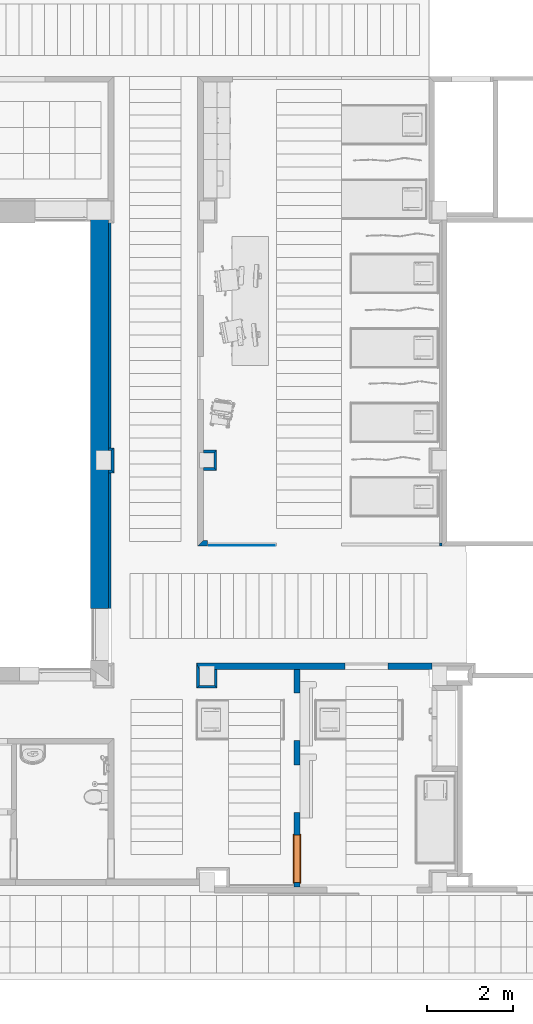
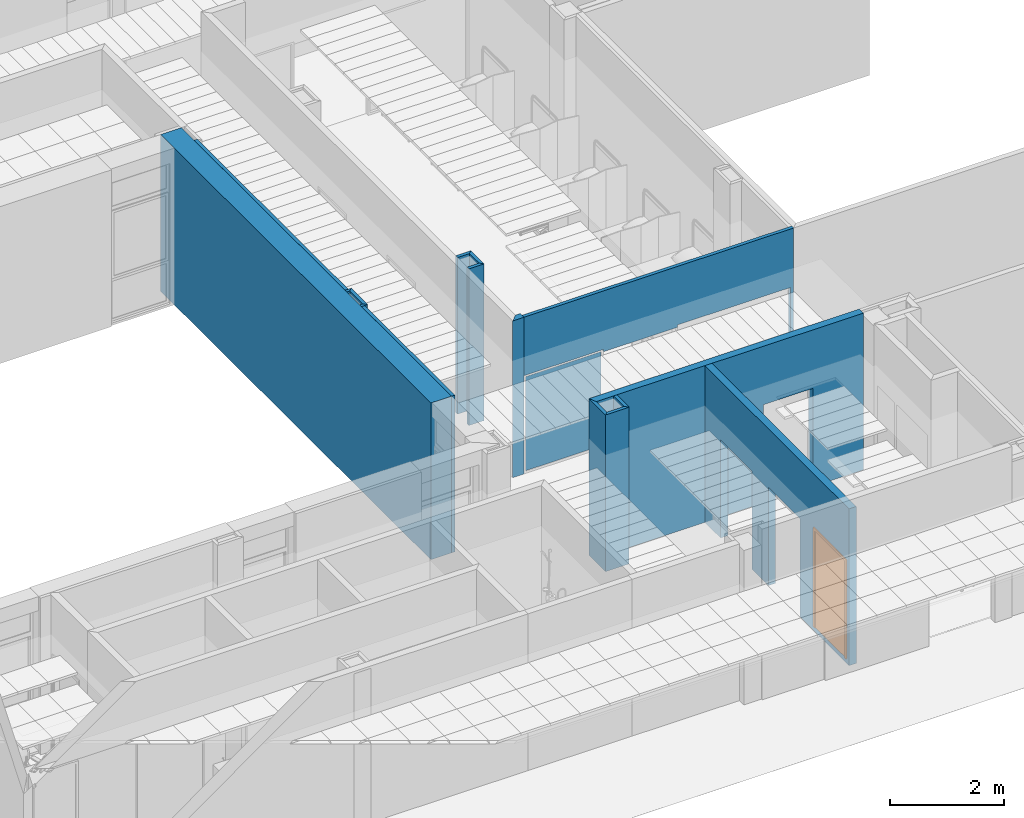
# One storey, part 34 of 68: 16 walls, 1 building element part, 1 proxy, 7 openings, 1 element without a shape of its own.
"""IFC2X3 building model written with IfcOpenShell, lengths in millimetres."""

from ifc_helpers import new_model, entity, si_unit, converted_unit, derived_unit, money_unit, direction, frame, origin_with_axes, origin_2d_with_axis, place, context, subcontext, project, spatial, polyline, rectangle, outline, extrude, faceted_brep, source, transform, mapped, material, layer, layer_set, layer_usage, type_object, element, fill, aggregate, save


model = new_model("IFC2X3")

# Units and contexts
model_context = context("Model", 3, precision=0.01, world=origin_with_axes(), true_north=direction((0.0, 1.0)))
body_context = subcontext(model_context, "Body", "Model", "MODEL_VIEW")
ifc_project = project(units=[si_unit("LENGTHUNIT", "METRE", prefix="MILLI"), si_unit("AREAUNIT", "SQUARE_METRE"), si_unit("VOLUMEUNIT", "CUBIC_METRE"), converted_unit("PLANEANGLEUNIT", "DEGREE", entity("IfcPlaneAngleMeasure", 0.0174532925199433), si_unit("PLANEANGLEUNIT", "RADIAN"), dimensions=[0, 0, 0, 0, 0, 0, 0]), money_unit("USD"), converted_unit("TIMEUNIT", "Year", entity("IfcTimeMeasure", 31557600.0), si_unit("TIMEUNIT", "SECOND"), dimensions=[0, 0, 1, 0, 0, 0, 0]), si_unit("MASSUNIT", "GRAM", prefix="KILO"), si_unit("THERMODYNAMICTEMPERATUREUNIT", "DEGREE_CELSIUS"), si_unit("LUMINOUSINTENSITYUNIT", "LUMEN"), si_unit("ENERGYUNIT", "JOULE", prefix="MEGA"), derived_unit("THERMALCONDUCTANCEUNIT", [(si_unit("POWERUNIT", "WATT"), 1), (si_unit("LENGTHUNIT", "METRE"), -1), (si_unit("THERMODYNAMICTEMPERATUREUNIT", "KELVIN"), -1)]), derived_unit("SPECIFICHEATCAPACITYUNIT", [(si_unit("ENERGYUNIT", "JOULE"), 1), (si_unit("MASSUNIT", "GRAM", prefix="KILO"), -1), (si_unit("THERMODYNAMICTEMPERATUREUNIT", "KELVIN"), -1)]), derived_unit("MASSDENSITYUNIT", [(si_unit("MASSUNIT", "GRAM", prefix="KILO"), 1), (si_unit("VOLUMEUNIT", "CUBIC_METRE"), -1)])], contexts=[model_context])

# Site, building, storey
site_placement = place(None, origin_with_axes())
site = spatial("IfcSite", under=ifc_project, at=site_placement, Name="Sitio", CompositionType="ELEMENT")
building_placement = place(site_placement, origin_with_axes())
building = spatial("IfcBuilding", under=site, at=building_placement, Name="Construcción", CompositionType="ELEMENT")
storey_placement = place(building_placement, origin_with_axes())
storey = spatial("IfcBuildingStorey", under=building, at=storey_placement, Name="PLANTA 1ª", CompositionType="ELEMENT", Elevation=0.0)

# Walls
ifc_material_1 = material(Name="ARQ_CE217_Gero")
ifc_layer_1 = layer(ifc_material_1, 150.0, ventilated="UNKNOWN")
ifc_material_2 = material(Name="ARQ_AI031_Aillament_Poliestireno expandido EPS")
ifc_layer_2 = layer(ifc_material_2, 180.0, ventilated="UNKNOWN")
ifc_material_3 = material(Name="ARQ_CE218_Ceramic")
ifc_layer_3 = layer(ifc_material_3, 80.0, ventilated="UNKNOWN")
ifc_material_4 = material(Name="ARQ_AM246_Arrebossat_De_Guix")
ifc_layer_4 = layer(ifc_material_4, 10.0, ventilated="UNKNOWN")
ifc_layer_set_1 = layer_set([ifc_layer_1, ifc_layer_2, ifc_layer_3, ifc_layer_4], Name="façana pati CR1")
ifc_layer_usage_1 = layer_usage(ifc_layer_set_1, "AXIS2", "POSITIVE", -420.0)
wall_type_1 = type_object("IfcWallType", Name="façana pati CR1 420", PredefinedType="NOTDEFINED")
wall_1_placement = place(storey_placement, frame((-1681.10900487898, -1193.975823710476, 0.0), z_axis=(0.0, 0.0, 1.0), x_axis=(0.0, -1.0, 0.0)))
element("IfcWallStandardCase", 1, at=wall_1_placement, inside=storey, type_object=wall_type_1, material=ifc_layer_usage_1, Name="MS-200", context=body_context, shape_type="SweptSolid", body=[
    extrude(outline(polyline([(0.0, -419.9999999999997), (9465.00000000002, -419.9999999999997), (9465.00000000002, 0.0), (0.0, 0.0), (0.0, -419.9999999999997)])), origin_with_axes(), (0.0, 0.0, 1.0), 3350.0),
])
ifc_material_5 = material(Name="Panel de Yeso Laminado")
ifc_layer_5 = layer(ifc_material_5, 13.0, ventilated="UNKNOWN")
ifc_layer_6 = layer(ifc_material_5, 13.0, ventilated="UNKNOWN")
ifc_material_6 = material(Name="ARQ_AI033_Aillament_Llana_De_Roca")
ifc_layer_7 = layer(ifc_material_6, 70.0, ventilated="UNKNOWN")
ifc_layer_8 = layer(ifc_material_5, 13.0, ventilated="UNKNOWN")
ifc_layer_9 = layer(ifc_material_5, 13.0, ventilated="UNKNOWN")
ifc_material_7 = material(Name="ARQ_EN271_Camara_Aire")
ifc_layer_10 = layer(ifc_material_7, 6.0, ventilated="UNKNOWN")
ifc_material_8 = material(Name="ARQ_FU093_Panellat_HPL")
ifc_layer_11 = layer(ifc_material_8, 6.0, ventilated="UNKNOWN")
ifc_layer_set_2 = layer_set([ifc_layer_5, ifc_layer_6, ifc_layer_7, ifc_layer_8, ifc_layer_9, ifc_layer_10, ifc_layer_11], Name="CR Pladur 70 HPL 1 cara")
ifc_layer_usage_2 = layer_usage(ifc_layer_set_2, "AXIS2", "NEGATIVE", 134.0)
wall_type_2 = type_object("IfcWallType", Name="CR Pladur 70 HPL 1 cara 134", PredefinedType="NOTDEFINED")
wall_2_placement = place(storey_placement, frame((390.891077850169, -9207.420994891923, 0.0), z_axis=(0.0, 0.0, 1.0), x_axis=(1.0, 0.0, 0.0)))
element("IfcWallStandardCase", 2, at=wall_2_placement, inside=storey, type_object=wall_type_2, material=ifc_layer_usage_2, Name="MS-212", context=body_context, shape_type="SweptSolid", body=[
    extrude(outline(polyline([(0.0, 0.0), (225.9364483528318, 0.0), (225.9364483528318, 134.0000000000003), (134.0, 134.0000000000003), (0.0, 0.0)])), origin_with_axes(), (0.0, 0.0, 1.0), 3350.0),
])

# Wall, openings
ifc_layer_12 = layer(ifc_material_5, 5.0, ventilated="UNKNOWN")
ifc_layer_13 = layer(ifc_material_6, 60.0, ventilated="UNKNOWN")
ifc_layer_14 = layer(ifc_material_5, 5.0, ventilated="UNKNOWN")
ifc_layer_set_3 = layer_set([ifc_layer_12, ifc_layer_13, ifc_layer_14], Name="CR- MAMPARA")
ifc_layer_usage_3 = layer_usage(ifc_layer_set_3, "AXIS2", "POSITIVE", -70.0)
wall_type_3 = type_object("IfcWallType", Name="CR- MAMPARA 70", PredefinedType="NOTDEFINED")
wall_3_placement = place(storey_placement, frame((616.8275262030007, -9137.420994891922, 0.0), z_axis=(0.0, 0.0, 1.0), x_axis=(1.0, 0.0, 0.0)))
wall_3 = element("IfcWallStandardCase", 3, at=wall_3_placement, inside=storey, type_object=wall_type_3, material=ifc_layer_usage_3, Name="MS-212", context=body_context, shape_type="SweptSolid", body=[
    extrude(outline(polyline([(0.0, -70.00000000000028), (5452.063468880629, -70.00000000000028), (5452.063468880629, 0.0), (0.0, 0.0), (0.0, -70.00000000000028)])), origin_with_axes(), (0.0, 0.0, 1.0), 3350.0),
])
opening_1_placement = place(wall_3_placement, frame((805.000864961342, 0.0, 0.0), z_axis=(0.0, 0.0, 1.0), x_axis=(1.0, 0.0, 0.0)))
opening_1 = element("IfcOpeningElement", 4, at=opening_1_placement, cuts=wall_3, Name="M-10", context=body_context, shape_type="SweptSolid", body=[
    extrude(rectangle(XDim=1610.001729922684, YDim=2100.0, at=origin_2d_with_axis()), frame((0.0, 70.00000000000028, 1050.0), z_axis=(0.0, -1.0, 0.0), x_axis=(-1.0, 0.0, 0.0)), (0.0, 0.0, 1.0), 210.0),
])
opening_2_placement = place(wall_3_placement, frame((4248.532599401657, 0.0, 0.0), z_axis=(0.0, 0.0, 1.0), x_axis=(1.0, 0.0, 0.0)))
element("IfcOpeningElement", 5, at=opening_2_placement, cuts=wall_3, Name="M-11", context=body_context, shape_type="SweptSolid", body=[
    extrude(rectangle(XDim=2277.061738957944, YDim=2100.0, at=origin_2d_with_axis()), frame((0.0, 70.00000000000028, 1050.0), z_axis=(0.0, -1.0, 0.0), x_axis=(-1.0, 0.0, 0.0)), (0.0, 0.0, 1.0), 210.0),
])
opening_3_placement = place(wall_3_placement, frame((2360.001729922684, 0.0, 0.0), z_axis=(0.0, 0.0, 1.0), x_axis=(1.0, 0.0, 0.0)))
element("IfcOpeningElement", 6, at=opening_3_placement, cuts=wall_3, Name="PF-19D", context=body_context, shape_type="SweptSolid", body=[
    extrude(rectangle(XDim=1500.0, YDim=2050.0, at=origin_2d_with_axis()), frame((0.0, 70.00000000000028, 1025.0), z_axis=(0.0, 1.0, 0.0), x_axis=(-1.0, 0.0, 0.0)), (0.0, 0.0, -1.0), 210.0),
])

# Walls
ifc_layer_15 = layer(ifc_material_8, 6.0, ventilated="UNKNOWN")
ifc_layer_16 = layer(ifc_material_7, 6.0, ventilated="UNKNOWN")
ifc_layer_17 = layer(ifc_material_5, 13.0, ventilated="UNKNOWN")
ifc_layer_18 = layer(ifc_material_6, 40.0, ventilated="UNKNOWN")
ifc_layer_set_4 = layer_set([ifc_layer_15, ifc_layer_16, ifc_layer_17, ifc_layer_18], Name="Pladur Tras 40 / 1N +HPL")
ifc_layer_usage_4 = layer_usage(ifc_layer_set_4, "AXIS2", "POSITIVE", -65.0)
wall_type_4 = type_object("IfcWallType", Name="Pladur Tras 40 / 1N +HPL 65", PredefinedType="NOTDEFINED")
wall_4_placement = place(storey_placement, frame((428.8909950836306, -12069.97582371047, 0.0), z_axis=(0.0, 0.0, 1.0), x_axis=(0.0, -1.0, 0.0)))
element("IfcWallStandardCase", 7, at=wall_4_placement, inside=storey, type_object=wall_type_4, material=ifc_layer_usage_4, Name="MS-226", context=body_context, shape_type="SweptSolid", body=[
    extrude(outline(polyline([(-146.0000000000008, -65.0), (433.9999999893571, -65.0), (368.9999999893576, 0.0), (0.0, 0.0), (-146.0000000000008, -65.0)])), origin_with_axes(), (0.0, 0.0, 1.0), 3350.0),
])
ifc_layer_usage_5 = layer_usage(ifc_layer_set_4, "AXIS2", "POSITIVE", -65.0)
wall_5_placement = place(storey_placement, frame((428.8909950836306, -12438.97582369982, 0.0), z_axis=(0.0, 0.0, 1.0), x_axis=(1.0, 0.0, 0.0)))
element("IfcWallStandardCase", 8, at=wall_5_placement, inside=storey, type_object=wall_type_4, material=ifc_layer_usage_5, Name="MS-227", context=body_context, shape_type="SweptSolid", body=[
    extrude(outline(polyline([(-65.0, -64.9999999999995), (415.0000525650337, -64.9999999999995), (350.0000525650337, 0.0), (0.0, 0.0), (-65.0, -64.9999999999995)])), origin_with_axes(), (0.0, 0.0, 1.0), 3350.0),
])
ifc_layer_usage_6 = layer_usage(ifc_layer_set_4, "AXIS2", "POSITIVE", -65.0)
wall_6_placement = place(storey_placement, frame((778.8910476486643, -12438.97582369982, 0.0), z_axis=(0.0, 0.0, 1.0), x_axis=(0.0, 1.0, 0.0)))
element("IfcWallStandardCase", 9, at=wall_6_placement, inside=storey, type_object=wall_type_4, material=ifc_layer_usage_6, Name="MS-228", context=body_context, shape_type="SweptSolid", body=[
    extrude(outline(polyline([(-64.9999999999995, -64.99999999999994), (368.9999999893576, -64.99999999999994), (368.9999999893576, 0.0), (0.0, 0.0), (-64.9999999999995, -64.99999999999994)])), origin_with_axes(), (0.0, 0.0, 1.0), 3350.0),
])
ifc_layer_usage_7 = layer_usage(ifc_layer_set_4, "AXIS2", "POSITIVE", 0.0)
wall_7_placement = place(storey_placement, frame((-1616.109004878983, -10658.9758237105, 0.0), z_axis=(0.0, 0.0, 1.0), x_axis=(0.0, 1.0, 0.0)))
element("IfcWallStandardCase", 10, at=wall_7_placement, inside=storey, type_object=wall_type_4, material=ifc_layer_usage_7, Name="MS-212", context=body_context, shape_type="SweptSolid", body=[
    extrude(outline(polyline([(0.0, 0.0), (3179.999134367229, 0.0), (3179.999134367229, 64.99999999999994), (0.0, 64.99999999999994), (0.0, 0.0)])), origin_with_axes(), (0.0, 0.0, 1.0), 3350.0),
])
ifc_layer_usage_8 = layer_usage(ifc_layer_set_4, "AXIS2", "POSITIVE", -65.0)
wall_8_placement = place(storey_placement, frame((-1681.109004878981, -7438.976689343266, 0.0), z_axis=(0.0, 0.0, 1.0), x_axis=(1.0, 0.0, 0.0)))
element("IfcWallStandardCase", 11, at=wall_8_placement, inside=storey, type_object=wall_type_4, material=ifc_layer_usage_8, Name="MS-238", context=body_context, shape_type="SweptSolid", body=[
    extrude(outline(polyline([(0.0, -65.0000000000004), (125.0000525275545, -65.0000000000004), (60.00005252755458, 0.0), (0.0, 0.0), (0.0, -65.0000000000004)])), origin_with_axes(), (0.0, 0.0, 1.0), 3350.0),
])
ifc_layer_usage_9 = layer_usage(ifc_layer_set_4, "AXIS2", "POSITIVE", -65.0)
wall_9_placement = place(storey_placement, frame((-1621.108952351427, -7438.976689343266, 0.0), z_axis=(0.0, 0.0, 1.0), x_axis=(0.0, 1.0, 0.0)))
element("IfcWallStandardCase", 12, at=wall_9_placement, inside=storey, type_object=wall_type_4, material=ifc_layer_usage_9, Name="MS-239", context=body_context, shape_type="SweptSolid", body=[
    extrude(outline(polyline([(-65.0000000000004, -64.99999999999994), (515.0020821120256, -64.99999999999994), (450.0020821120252, 0.0), (0.0, 0.0), (-65.0000000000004, -64.99999999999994)])), origin_with_axes(), (0.0, 0.0, 1.0), 3350.0),
])
ifc_layer_usage_10 = layer_usage(ifc_layer_set_4, "AXIS2", "POSITIVE", -65.0)
wall_10_placement = place(storey_placement, frame((-1621.108952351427, -6988.974607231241, 0.0), z_axis=(0.0, 0.0, 1.0), x_axis=(-1.0, 0.0, 0.0)))
element("IfcWallStandardCase", 13, at=wall_10_placement, inside=storey, type_object=wall_type_4, material=ifc_layer_usage_10, Name="MS-240", context=body_context, shape_type="SweptSolid", body=[
    extrude(outline(polyline([(-64.99999999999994, -65.0000000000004), (60.00005252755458, -65.0000000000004), (60.00005252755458, 0.0), (0.0, 0.0), (-64.99999999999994, -65.0000000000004)])), origin_with_axes(), (0.0, 0.0, 1.0), 3350.0),
])
ifc_layer_usage_11 = layer_usage(ifc_layer_set_4, "AXIS2", "POSITIVE", 0.0)
wall_11_placement = place(storey_placement, frame((-1616.109004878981, -6938.974607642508, 0.0), z_axis=(0.0, 0.0, 1.0), x_axis=(0.0, 1.0, 0.0)))
element("IfcWallStandardCase", 14, at=wall_11_placement, inside=storey, type_object=wall_type_4, material=ifc_layer_usage_11, Name="MS-241", context=body_context, shape_type="SweptSolid", body=[
    extrude(outline(polyline([(0.0, 0.0), (5299.998783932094, 0.0), (5299.998783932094, 64.99999999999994), (0.0, 64.99999999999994), (0.0, 0.0)])), origin_with_axes(), (0.0, 0.0, 1.0), 3350.0),
])

# Wall, openings, proxy
ifc_layer_19 = layer(ifc_material_8, 6.0, ventilated="UNKNOWN")
ifc_layer_20 = layer(ifc_material_7, 6.0, ventilated="UNKNOWN")
ifc_layer_21 = layer(ifc_material_5, 13.0, ventilated="UNKNOWN")
ifc_layer_22 = layer(ifc_material_5, 13.0, ventilated="UNKNOWN")
ifc_layer_23 = layer(ifc_material_6, 70.0, ventilated="UNKNOWN")
ifc_layer_24 = layer(ifc_material_5, 13.0, ventilated="UNKNOWN")
ifc_layer_25 = layer(ifc_material_5, 13.0, ventilated="UNKNOWN")
ifc_layer_26 = layer(ifc_material_7, 6.0, ventilated="UNKNOWN")
ifc_layer_27 = layer(ifc_material_8, 6.0, ventilated="UNKNOWN")
ifc_layer_set_5 = layer_set([ifc_layer_19, ifc_layer_20, ifc_layer_21, ifc_layer_22, ifc_layer_23, ifc_layer_24, ifc_layer_25, ifc_layer_26, ifc_layer_27], Name="CR Pladur 70 HPL 2 cares")
ifc_layer_usage_12 = layer_usage(ifc_layer_set_5, "AXIS2", "POSITIVE", -146.0)
wall_type_5 = type_object("IfcWallType", Name="CR Pladur 70 HPL 2 cares 146", PredefinedType="NOTDEFINED")
wall_12_placement = place(storey_placement, frame((2622.912972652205, -17264.97565901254, 0.0), z_axis=(0.0, 0.0, 1.0), x_axis=(0.0, 1.0, 0.0)))
wall_12 = element("IfcWallStandardCase", 15, at=wall_12_placement, inside=storey, type_object=wall_type_5, material=ifc_layer_usage_12, Name="MS-212", context=body_context, shape_type="SweptSolid", body=[
    extrude(outline(polyline([(146.0000000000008, -145.9999999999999), (5276.0, -145.9999999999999), (5276.0, 0.0), (146.0000000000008, 0.0), (146.0000000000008, -145.9999999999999)])), origin_with_axes(), (0.0, 0.0, 1.0), 3350.0),
])
opening_4_placement = place(wall_12_placement, frame((4095.834562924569, 0.0, 0.0), z_axis=(0.0, 0.0, 1.0), x_axis=(1.0, 0.0, 0.0)))
element("IfcOpeningElement", 16, at=opening_4_placement, cuts=wall_12, Name="P- Transfer", context=body_context, shape_type="SweptSolid", body=[
    extrude(rectangle(XDim=1100.000000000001, YDim=2100.0, at=origin_2d_with_axis()), frame((0.0, -145.9999999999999, 1050.0), z_axis=(0.0, -1.0, 0.0), x_axis=(1.0, 0.0, 0.0)), (0.0, 0.0, -1.0), 438.0000000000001),
])
opening_5_placement = place(wall_12_placement, frame((2418.715045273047, 0.0, 0.0), z_axis=(0.0, 0.0, 1.0), x_axis=(1.0, 0.0, 0.0)))
element("IfcOpeningElement", 17, at=opening_5_placement, cuts=wall_12, Name="P- Transfer", context=body_context, shape_type="SweptSolid", body=[
    extrude(rectangle(XDim=1100.000000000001, YDim=2100.0, at=origin_2d_with_axis()), frame((0.0, -145.9999999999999, 1050.0), z_axis=(0.0, -1.0, 0.0), x_axis=(1.0, 0.0, 0.0)), (0.0, 0.0, -1.0), 438.0000000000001),
])
opening_6_placement = place(wall_12_placement, frame((797.4995115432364, 0.0, 100.0), z_axis=(0.0, 0.0, 1.0), x_axis=(1.0, 0.0, 0.0)))
opening_6 = element("IfcOpeningElement", 18, at=opening_6_placement, cuts=wall_12, Name="P-03", context=body_context, shape_type="SweptSolid", body=[
    extrude(rectangle(XDim=1100.000000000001, YDim=2100.0, at=origin_2d_with_axis()), frame((0.0, -145.9999999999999, 1050.0), z_axis=(0.0, -1.0, 0.0), x_axis=(-1.0, 0.0, 0.0)), (0.0, 0.0, -1.0), 438.0000000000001),
    extrude(rectangle(XDim=1143.999999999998, YDim=2122.0, at=origin_2d_with_axis()), frame((0.0, -145.9999999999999, 1061.0), z_axis=(0.0, -1.0, 0.0), x_axis=(-1.0, 0.0, 0.0)), (0.0, 0.0, 1.0), 146.0),
    extrude(rectangle(XDim=1143.999999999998, YDim=2122.0, at=origin_2d_with_axis()), frame((0.0, 0.0, 1061.0), z_axis=(0.0, 1.0, 0.0), x_axis=(-1.0, 0.0, 0.0)), (0.0, 0.0, 1.0), 146.0),
])
building_element_proxy_type_1 = type_object("IfcBuildingElementProxyType", Name="Puerta 27", PredefinedType="NOTDEFINED")
shared_shape = source(origin_with_axes(), body_context, "Body", "Brep", [
    faceted_brep([(572.0000000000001, -165.0, 0.0), (522.0, -165.0, 0.0), (522.0, -146.0, 0.0), (572.0000000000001, -146.0, 0.0), (572.0000000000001, -165.0000000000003, 2122.0), (522.0, -165.0000000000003, 2072.0), (522.0, -146.0000000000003, 2072.0), (572.0000000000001, -146.0000000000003, 2122.0)], [[[0, 1, 2, 3]], [[0, 4, 5, 1]], [[1, 5, 6, 2]], [[3, 2, 6, 7]], [[4, 0, 3, 7]], [[5, 4, 7, 6]]]),
    faceted_brep([(-572.0000000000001, -165.0000000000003, 2122.0), (-522.0, -165.0000000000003, 2072.0), (-522.0, -146.0000000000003, 2072.0), (-572.0000000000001, -146.0000000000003, 2122.0), (-572.0000000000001, -165.0, 0.0), (-522.0, -165.0, 0.0), (-522.0, -146.0, 0.0), (-572.0000000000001, -146.0, 0.0)], [[[0, 1, 2, 3]], [[0, 4, 5, 1]], [[1, 5, 6, 2]], [[3, 2, 6, 7]], [[4, 0, 3, 7]], [[5, 4, 7, 6]]]),
    faceted_brep([(572.0000000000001, -165.0000000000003, 2122.0), (522.0, -165.0000000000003, 2072.0), (522.0, -146.0000000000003, 2072.0), (572.0000000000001, -146.0000000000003, 2122.0), (-572.0000000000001, -165.0000000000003, 2122.0), (-522.0, -165.0000000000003, 2072.0), (-522.0, -146.0000000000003, 2072.0), (-572.0000000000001, -146.0000000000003, 2122.0)], [[[0, 1, 2, 3]], [[0, 4, 5, 1]], [[1, 5, 6, 2]], [[3, 2, 6, 7]], [[4, 0, 3, 7]], [[5, 4, 7, 6]]]),
    faceted_brep([(572.0000000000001, 19.0, 0.0), (572.0000000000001, 0.0, 0.0), (522.0, 0.0, 0.0), (522.0, 19.0, 0.0), (572.0000000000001, 18.99999999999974, 2122.0), (572.0000000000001, 0.0, 2122.0), (522.0, 0.0, 2072.0), (522.0, 18.99999999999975, 2072.0)], [[[0, 1, 2, 3]], [[4, 5, 1, 0]], [[1, 5, 6, 2]], [[3, 2, 6, 7]], [[0, 3, 7, 4]], [[7, 6, 5, 4]]]),
    faceted_brep([(-572.0000000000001, 18.99999999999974, 2122.0), (-572.0000000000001, 0.0, 2122.0), (-522.0, 0.0, 2072.0), (-522.0, 18.99999999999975, 2072.0), (-572.0000000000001, 19.0, 0.0), (-572.0000000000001, 0.0, 0.0), (-522.0, 0.0, 0.0), (-522.0, 19.0, 0.0)], [[[0, 1, 2, 3]], [[4, 5, 1, 0]], [[1, 5, 6, 2]], [[3, 2, 6, 7]], [[0, 3, 7, 4]], [[7, 6, 5, 4]]]),
    faceted_brep([(572.0000000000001, 18.99999999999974, 2122.0), (572.0000000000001, 0.0, 2122.0), (522.0, 0.0, 2072.0), (522.0, 18.99999999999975, 2072.0), (-572.0000000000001, 18.99999999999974, 2122.0), (-572.0000000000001, 0.0, 2122.0), (-522.0, 0.0, 2072.0), (-522.0, 18.99999999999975, 2072.0)], [[[0, 1, 2, 3]], [[4, 5, 1, 0]], [[1, 5, 6, 2]], [[3, 2, 6, 7]], [[0, 3, 7, 4]], [[7, 6, 5, 4]]]),
    faceted_brep([(510.0, -40.0, 0.0), (510.0, -146.0, 0.0), (510.0, -146.0, 2060.0), (510.0, -40.0, 2060.0), (522.0, -40.0, 0.0), (522.0, 0.0, 0.0), (550.0, 0.0, 0.0), (550.0, -146.0, 0.0), (550.0, -146.0, 2060.0), (522.0, -40.0, 2060.0), (550.0, 0.0, 2060.0), (522.0, 0.0, 2060.0)], [[[0, 1, 2, 3]], [[4, 5, 6, 7, 1, 0]], [[1, 7, 8, 2]], [[9, 3, 2, 8, 10, 11]], [[9, 4, 0, 3]], [[11, 5, 4, 9]], [[11, 10, 6, 5]], [[6, 10, 8, 7]]]),
    faceted_brep([(-522.0, -40.0, 2060.0), (-522.0, 0.0, 2060.0), (-550.0, 0.0, 2060.0), (-550.0, -146.0, 2060.0), (-510.0, -146.0, 2060.0), (-510.0, -40.0, 2060.0), (-522.0, -40.0, 0.0), (-522.0, 0.0, 0.0), (-550.0, 0.0, 0.0), (-550.0, -146.0, 0.0), (-510.0, -146.0, 0.0), (-510.0, -40.0, 0.0)], [[[0, 1, 2, 3, 4, 5]], [[0, 6, 7, 1]], [[7, 8, 2, 1]], [[2, 8, 9, 3]], [[3, 9, 10, 4]], [[5, 4, 10, 11]], [[5, 11, 6, 0]], [[6, 11, 10, 9, 8, 7]]]),
    faceted_brep([(522.0, 0.0, 2072.0), (-522.0, 0.0, 2072.0), (-522.0, 0.0, 2060.0), (-550.0, 0.0, 2060.0), (-550.0, 0.0, 2100.0), (550.0, 0.0, 2100.0), (550.0, 0.0, 2060.0), (522.0, 0.0, 2060.0), (522.0, -40.0, 2072.0), (-522.0, -40.0, 2072.0), (-522.0, -40.0, 2060.0), (-510.0, -40.0, 2060.0), (-510.0, -146.0, 2060.0), (-550.0, -146.0, 2060.0), (-550.0, -146.0, 2100.0), (550.0, -146.0, 2100.0), (550.0, -146.0, 2060.0), (522.0, -40.0, 2060.0), (510.0, -146.0, 2060.0), (510.0, -40.0, 2060.0)], [[[0, 1, 2, 3, 4, 5, 6, 7]], [[0, 8, 9, 1]], [[1, 9, 10, 2]], [[10, 11, 12, 13, 3, 2]], [[4, 3, 13, 14]], [[5, 4, 14, 15]], [[6, 5, 15, 16]], [[17, 7, 6, 16, 18, 19]], [[7, 17, 8, 0]], [[10, 9, 8, 17, 19, 11]], [[19, 18, 12, 11]], [[12, 18, 16, 15, 14, 13]]]),
    faceted_brep([(-522.0, 0.0, 0.0), (522.0, 0.0, 0.0), (522.0, -40.0, 0.0), (-522.0, -40.0, 0.0), (-522.0, 0.0, 2072.0), (522.0, 0.0, 2072.0), (522.0, -40.00000000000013, 2072.0), (-522.0, -40.00000000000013, 2072.0)], [[[0, 1, 2, 3]], [[0, 4, 5, 1]], [[1, 5, 6, 2]], [[3, 2, 6, 7]], [[4, 0, 3, 7]], [[5, 4, 7, 6]]]),
])
proxy_1_placement = place(opening_6_placement, frame((-550.0000000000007, 0.0, 0.0), z_axis=(0.0, 0.0, 1.0), x_axis=(1.0, 0.0, 0.0)))
proxy_1 = element("IfcBuildingElementProxy", 19, at=proxy_1_placement, inside=storey, type_object=building_element_proxy_type_1, Name="P-03", context=body_context, shape_type="MappedRepresentation", body=[
    mapped(shared_shape, transform((550.0000000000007, 0.0, 0.0))),
])
fill(opening_6, proxy_1)

# Wall, opening
ifc_layer_usage_13 = layer_usage(ifc_layer_set_5, "AXIS2", "POSITIVE", -146.0)
wall_13_placement = place(storey_placement, frame((5828.890995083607, -12069.97582371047, 0.0), z_axis=(0.0, 0.0, 1.0), x_axis=(-1.0, 0.0, 0.0)))
wall_13 = element("IfcWallStandardCase", 20, at=wall_13_placement, inside=storey, type_object=wall_type_5, material=ifc_layer_usage_13, Name="MS-225", context=body_context, shape_type="SweptSolid", body=[
    extrude(outline(polyline([(0.0, -146.0000000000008), (5464.999999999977, -146.0000000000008), (5399.999999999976, 0.0), (0.0, 0.0), (0.0, -146.0000000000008)])), origin_with_axes(), (0.0, 0.0, 1.0), 3350.0),
])
opening_7_placement = place(wall_13_placement, frame((1521.495129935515, 0.0, 0.0), z_axis=(0.0, 0.0, 1.0), x_axis=(1.0, 0.0, 0.0)))
element("IfcOpeningElement", 21, at=opening_7_placement, cuts=wall_13, Name="F-02", context=body_context, shape_type="SweptSolid", body=[
    extrude(rectangle(XDim=999.9999999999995, YDim=2100.0, at=origin_2d_with_axis()), frame((0.0, 146.0000000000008, 1050.0), z_axis=(0.0, -1.0, 0.0), x_axis=(-1.0, 0.0, 0.0)), (0.0, 0.0, 1.0), 438.0000000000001),
])

# Walls
ifc_layer_28 = layer(ifc_material_5, 13.0, ventilated="UNKNOWN")
ifc_layer_29 = layer(ifc_material_5, 13.0, ventilated="UNKNOWN")
ifc_layer_30 = layer(ifc_material_6, 40.0, ventilated="UNKNOWN")
ifc_layer_set_6 = layer_set([ifc_layer_28, ifc_layer_29, ifc_layer_30], Name="Pladur Tras 40 / 2N")
ifc_layer_usage_14 = layer_usage(ifc_layer_set_6, "AXIS2", "POSITIVE", 0.0)
wall_type_6 = type_object("IfcWallType", Name="Pladur Tras 40 / 2N 66", PredefinedType="NOTDEFINED")
wall_14_placement = place(storey_placement, frame((831.8910476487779, -7446.975823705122, 0.0), z_axis=(0.0, 0.0, 1.0), x_axis=(0.0, 1.0, 0.0)))
element("IfcWallStandardCase", 22, at=wall_14_placement, inside=storey, type_object=wall_type_6, material=ifc_layer_usage_14, Name="MS-212", context=body_context, shape_type="SweptSolid", body=[
    extrude(outline(polyline([(0.0, 0.0), (466.0000001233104, 0.0), (400.0000001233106, 65.99999999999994), (65.99999999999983, 65.99999999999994), (0.0, 0.0)])), origin_with_axes(), (0.0, 0.0, 1.0), 3350.0),
])
ifc_layer_usage_15 = layer_usage(ifc_layer_set_6, "AXIS2", "NEGATIVE", 0.0)
wall_15_placement = place(storey_placement, frame((831.8910476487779, -7446.975823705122, 0.0), z_axis=(0.0, 0.0, 1.0), x_axis=(-1.0, 0.0, 0.0)))
element("IfcWallStandardCase", 23, at=wall_15_placement, inside=storey, type_object=wall_type_6, material=ifc_layer_usage_15, Name="MS-212", context=body_context, shape_type="SweptSolid", body=[
    extrude(outline(polyline([(65.99999999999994, -65.99999999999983), (306.9999697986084, -65.99999999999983), (306.9999697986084, 0.0), (0.0, 0.0), (65.99999999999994, -65.99999999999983)])), origin_with_axes(), (0.0, 0.0, 1.0), 3350.0),
])
ifc_layer_usage_16 = layer_usage(ifc_layer_set_6, "AXIS2", "POSITIVE", 0.0)
wall_16_placement = place(storey_placement, frame((831.8910476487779, -6980.975823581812, 0.0), z_axis=(0.0, 0.0, 1.0), x_axis=(-1.0, 0.0, 0.0)))
element("IfcWallStandardCase", 24, at=wall_16_placement, inside=storey, type_object=wall_type_6, material=ifc_layer_usage_16, Name="MS-212", context=body_context, shape_type="SweptSolid", body=[
    extrude(outline(polyline([(0.0, 0.0), (306.9999697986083, 0.0), (306.9999697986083, 65.99999999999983), (65.99999999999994, 65.99999999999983), (0.0, 0.0)])), origin_with_axes(), (0.0, 0.0, 1.0), 3350.0),
])

# Proxy
building_element_proxy_type_2 = type_object("IfcBuildingElementProxyType", Name="Ventana Escaparate 27", PredefinedType="NOTDEFINED")
proxy_2_placement = place(opening_1_placement, frame((805.0008649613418, 0.0, 0.0), z_axis=(0.0, 0.0, 1.0), x_axis=(-1.0, 0.0, 0.0)))
proxy_2 = element("IfcBuildingElementProxy", 25, at=proxy_2_placement, inside=storey, type_object=building_element_proxy_type_2, Name="M-10")

fill(opening_1, proxy_2)

# Building element part
building_element_part_placement = place(proxy_2_placement, origin_with_axes())
building_element_part = element("IfcBuildingElementPart", 26, at=building_element_part_placement, context=body_context, shape_type="Brep", body=[
    faceted_brep([(40.00000000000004, 60.0000000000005, 50.0), (1570.001729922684, 60.0000000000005, 50.0), (1570.001729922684, 50.00000000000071, 50.0), (40.00000000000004, 50.00000000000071, 50.0), (40.00000000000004, 60.0000000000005, 2060.0), (1570.001729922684, 60.0000000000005, 2060.0), (1570.001729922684, 50.00000000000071, 2060.0), (40.00000000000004, 50.00000000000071, 2060.0)], [[[0, 1, 2, 3]], [[0, 4, 5, 1]], [[1, 5, 6, 2]], [[3, 2, 6, 7]], [[4, 0, 3, 7]], [[5, 4, 7, 6]]]),
])

aggregate(proxy_2, [building_element_part])

save(model, "model.ifc")
